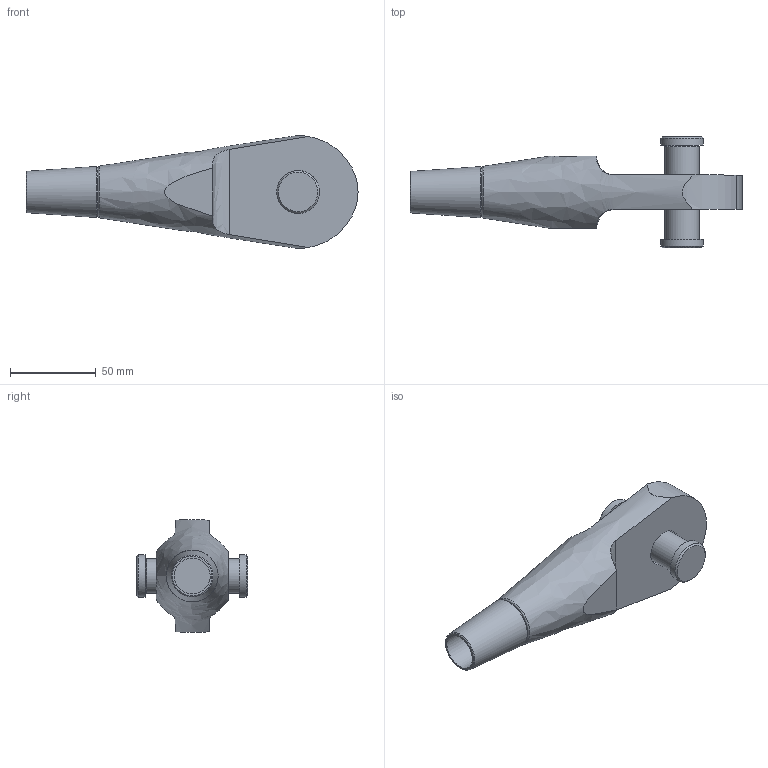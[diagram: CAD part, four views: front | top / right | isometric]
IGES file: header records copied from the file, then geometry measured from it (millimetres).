
Global section: file name: 520-020-OES; native system: Autodesk Inventor 2016; preprocessor: unknown; author: Administrator; date: 20200626.101048; units: centimetre
Bounding box: 194 x 65.22 x 66.02 mm (x, y, z)
Volume: 208110.5 mm3; surface area: 35253.8 mm2
Topology: 2 solids, 3 shells, 49 faces, 116 edges, 79 vertices
Faces by surface type: bspline 49
